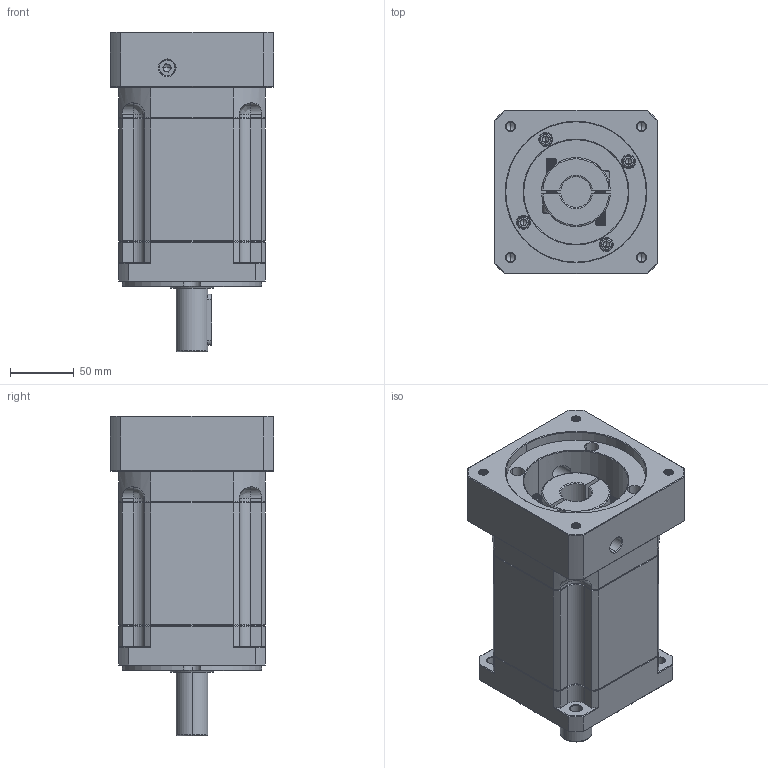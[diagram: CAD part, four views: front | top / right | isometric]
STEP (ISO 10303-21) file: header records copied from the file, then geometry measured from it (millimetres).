
FILE_DESCRIPTION (( 'STEP AP214' ), '1' );
FILE_NAME ('ZB115A-D25-L3-P2-24-110-145-M8.step', '2023-08-26T06:26:02', ( '' ), ( '' ), 'SwSTEP 2.0', 'SolidWorks 2016', '' );
FILE_SCHEMA (( 'AUTOMOTIVE_DESIGN' ));
Length unit declared in the file: millimetre
Products named in the file (1): ZB115A-D25-L3-P2-24-110-145-M8
Bounding box: 128 x 128 x 250.5 mm (x, y, z)
Volume: 2270133.1 mm3; surface area: 202269.1 mm2
Topology: 6 solids, 6 shells, 2390 faces, 6267 edges, 3976 vertices
Faces by surface type: plane 1143, cylinder 439, bspline 423, cone 365, torus 20
Entity records: 128666 total; most frequent: CARTESIAN_POINT 47120, ORIENTED_EDGE 12466, DIRECTION 9863, EDGE_CURVE 6233, LINE 3993, VECTOR 3993, VERTEX_POINT 3976, AXIS2_PLACEMENT_3D 2935
